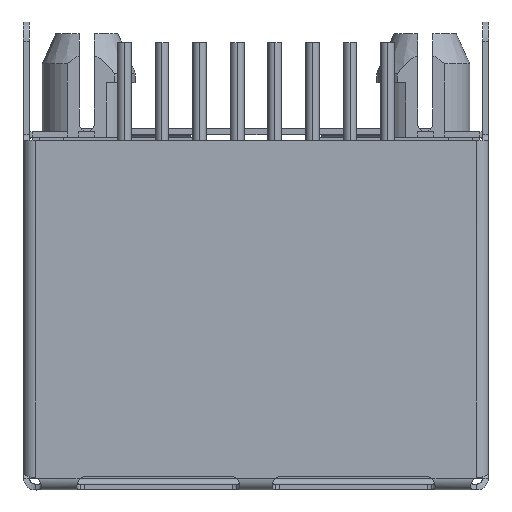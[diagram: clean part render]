
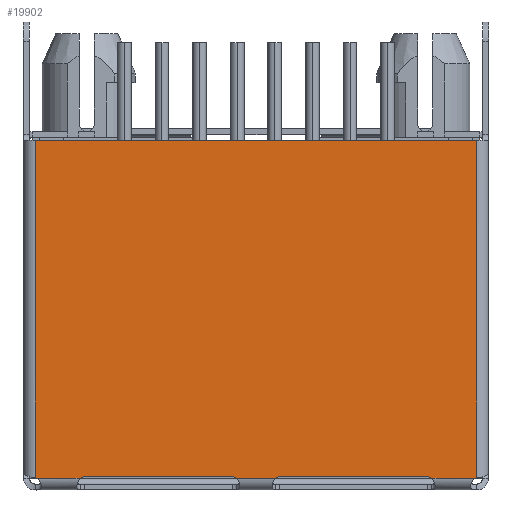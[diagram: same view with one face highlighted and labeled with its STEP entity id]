
A CAD part, front view. The second image highlights one B-rep face of the part: STEP entity #19902.
In plain terms, the highlighted planar face has unit normal (0, -1, 0) as drawn and (-1, 0, 0) by its records, which use the part's own axes.
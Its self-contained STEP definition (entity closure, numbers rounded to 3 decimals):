
#15453=DIRECTION('',(0.,0.,1.));
#15454=VECTOR('',#15453,5.);
#15455=CARTESIAN_POINT('',(-18.4,11.357,0.8));
#15456=LINE('',#15455,#15454);
#15457=CARTESIAN_POINT('',(-18.4,11.607,5.8));
#15458=DIRECTION('',(1.,0.,0.));
#15459=DIRECTION('',(0.,-0.828,0.56));
#15460=AXIS2_PLACEMENT_3D('',#15457,#15458,#15459);
#15462=DIRECTION('',(0.,0.,1.));
#15463=VECTOR('',#15462,14.9);
#15464=CARTESIAN_POINT('',(-18.4,0.,-7.45));
#15465=LINE('',#15464,#15463);
#15466=CARTESIAN_POINT('',(-18.4,11.607,-5.8));
#15467=DIRECTION('',(-1.,0.,0.));
#15468=DIRECTION('',(0.,-0.828,-0.56));
#15469=AXIS2_PLACEMENT_3D('',#15466,#15467,#15468);
#15471=DIRECTION('',(0.,0.,-1.));
#15472=VECTOR('',#15471,5.);
#15473=CARTESIAN_POINT('',(-18.4,11.357,-0.8));
#15474=LINE('',#15473,#15472);
#15475=CARTESIAN_POINT('',(-18.4,11.607,-0.8));
#15476=DIRECTION('',(-1.,0.,0.));
#15477=DIRECTION('',(0.,-1.,0.));
#15478=AXIS2_PLACEMENT_3D('',#15475,#15476,#15477);
#15480=CARTESIAN_POINT('',(-18.4,11.607,0.8));
#15481=DIRECTION('',(1.,0.,0.));
#15482=DIRECTION('',(0.,-1.,0.));
#15483=AXIS2_PLACEMENT_3D('',#15480,#15481,#15482);
#15506=DIRECTION('',(0.,0.,-1.));
#15507=VECTOR('',#15506,1.51);
#15508=CARTESIAN_POINT('',(-18.4,11.4,-5.94));
#15509=LINE('',#15508,#15507);
#15551=DIRECTION('',(0.,0.,-1.));
#15552=VECTOR('',#15551,1.51);
#15553=CARTESIAN_POINT('',(-18.4,11.4,7.45));
#15554=LINE('',#15553,#15552);
#15564=DIRECTION('',(0.,0.,-1.));
#15565=VECTOR('',#15564,1.32);
#15566=CARTESIAN_POINT('',(-18.4,11.4,0.66));
#15567=LINE('',#15566,#15565);
#15786=DIRECTION('',(0.,1.,0.));
#15787=VECTOR('',#15786,11.4);
#15788=CARTESIAN_POINT('',(-18.4,0.,-7.45));
#15789=LINE('',#15788,#15787);
#15868=DIRECTION('',(0.,1.,0.));
#15869=VECTOR('',#15868,11.4);
#15870=CARTESIAN_POINT('',(-18.4,0.,7.45));
#15871=LINE('',#15870,#15869);
#19079=CARTESIAN_POINT('',(-18.4,0.,-7.45));
#19080=CARTESIAN_POINT('',(-18.4,0.,7.45));
#19081=VERTEX_POINT('',#19079);
#19082=VERTEX_POINT('',#19080);
#19503=CARTESIAN_POINT('',(-18.4,11.357,-0.8));
#19504=CARTESIAN_POINT('',(-18.4,11.357,-5.8));
#19505=VERTEX_POINT('',#19503);
#19506=VERTEX_POINT('',#19504);
#19507=CARTESIAN_POINT('',(-18.4,11.4,-5.94));
#19508=VERTEX_POINT('',#19507);
#19509=CARTESIAN_POINT('',(-18.4,11.4,-0.66));
#19510=VERTEX_POINT('',#19509);
#19527=CARTESIAN_POINT('',(-18.4,11.4,-7.45));
#19528=VERTEX_POINT('',#19527);
#19811=CARTESIAN_POINT('',(-18.4,11.4,7.45));
#19812=VERTEX_POINT('',#19811);
#19823=CARTESIAN_POINT('',(-18.4,11.357,0.8));
#19824=CARTESIAN_POINT('',(-18.4,11.357,5.8));
#19825=VERTEX_POINT('',#19823);
#19826=VERTEX_POINT('',#19824);
#19827=CARTESIAN_POINT('',(-18.4,11.4,5.94));
#19828=VERTEX_POINT('',#19827);
#19829=CARTESIAN_POINT('',(-18.4,11.4,0.66));
#19830=VERTEX_POINT('',#19829);
#19871=CARTESIAN_POINT('',(-18.4,11.8,-7.45));
#19872=DIRECTION('',(-1.,0.,0.));
#19873=DIRECTION('',(0.,0.,-1.));
#19874=AXIS2_PLACEMENT_3D('',#19871,#19872,#19873);
#19875=PLANE('',#19874);
#19877=ORIENTED_EDGE('',*,*,#19876,.T.);
#19879=ORIENTED_EDGE('',*,*,#19878,.F.);
#19881=ORIENTED_EDGE('',*,*,#19880,.F.);
#19883=ORIENTED_EDGE('',*,*,#19882,.F.);
#19885=ORIENTED_EDGE('',*,*,#19884,.F.);
#19887=ORIENTED_EDGE('',*,*,#19886,.T.);
#19889=ORIENTED_EDGE('',*,*,#19888,.F.);
#19891=ORIENTED_EDGE('',*,*,#19890,.T.);
#19893=ORIENTED_EDGE('',*,*,#19892,.F.);
#19895=ORIENTED_EDGE('',*,*,#19894,.T.);
#19897=ORIENTED_EDGE('',*,*,#19896,.F.);
#19899=ORIENTED_EDGE('',*,*,#19898,.F.);
#19900=EDGE_LOOP('',(#19877,#19879,#19881,#19883,#19885,#19887,#19889,#19891,
#19893,#19895,#19897,#19899));
#19901=FACE_OUTER_BOUND('',#19900,.F.);
#19902=ADVANCED_FACE('',(#19901),#19875,.T.);
#15461=CIRCLE('',#15460,0.25);
#15470=CIRCLE('',#15469,0.25);
#15479=CIRCLE('',#15478,0.25);
#15484=CIRCLE('',#15483,0.25);
#19876=EDGE_CURVE('',#19825,#19826,#15456,.T.);
#19878=EDGE_CURVE('',#19828,#19826,#15461,.T.);
#19880=EDGE_CURVE('',#19812,#19828,#15554,.T.);
#19882=EDGE_CURVE('',#19082,#19812,#15871,.T.);
#19884=EDGE_CURVE('',#19081,#19082,#15465,.T.);
#19886=EDGE_CURVE('',#19081,#19528,#15789,.T.);
#19888=EDGE_CURVE('',#19508,#19528,#15509,.T.);
#19890=EDGE_CURVE('',#19508,#19506,#15470,.T.);
#19892=EDGE_CURVE('',#19505,#19506,#15474,.T.);
#19894=EDGE_CURVE('',#19505,#19510,#15479,.T.);
#19896=EDGE_CURVE('',#19830,#19510,#15567,.T.);
#19898=EDGE_CURVE('',#19825,#19830,#15484,.T.);
